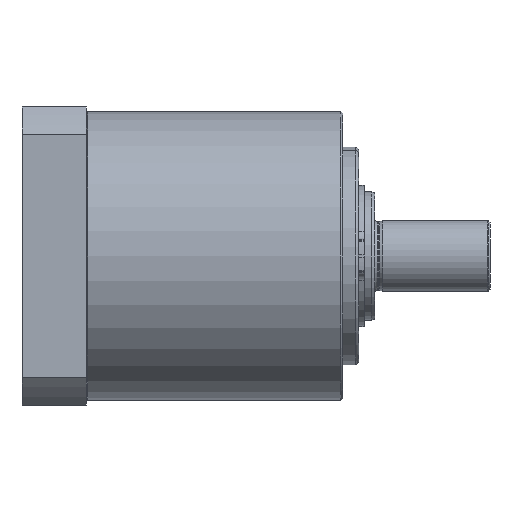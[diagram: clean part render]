
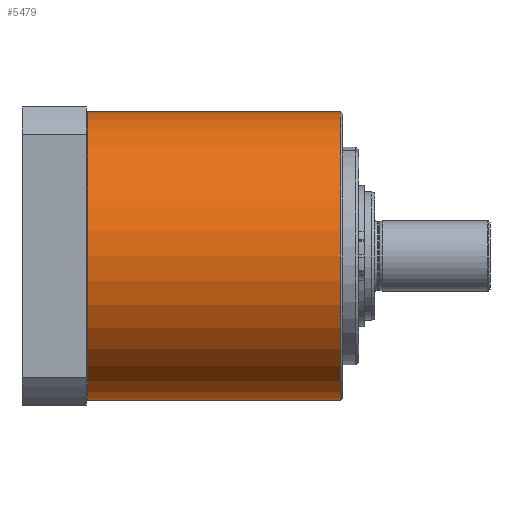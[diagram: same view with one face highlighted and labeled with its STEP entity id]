
A CAD part, front view. The second image highlights one B-rep face of the part: STEP entity #5479.
In plain terms, the highlighted cylindrical face has radius 45 mm (diameter 90 mm), a partial arc.
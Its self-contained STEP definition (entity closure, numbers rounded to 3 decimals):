
#222 = LINE ( 'NONE', #13585, #6341 ) ;
#600 = DIRECTION ( 'NONE',  ( 0., 0., -1. ) ) ;
#624 = CARTESIAN_POINT ( 'NONE',  ( 79.5, 0., 0. ) ) ;
#1463 = AXIS2_PLACEMENT_3D ( 'NONE', #624, #6131, #9425 ) ;
#1878 = DIRECTION ( 'NONE',  ( 1., 0., 0. ) ) ;
#1983 = VECTOR ( 'NONE', #8368, 1000. ) ;
#2133 = ORIENTED_EDGE ( 'NONE', *, *, #4869, .T. ) ;
#2322 = ORIENTED_EDGE ( 'NONE', *, *, #12853, .T. ) ;
#2755 = CARTESIAN_POINT ( 'NONE',  ( 79.5, 0., 45. ) ) ;
#3406 = AXIS2_PLACEMENT_3D ( 'NONE', #10634, #10492, #600 ) ;
#3995 = LINE ( 'NONE', #6313, #1983 ) ;
#4495 = VERTEX_POINT ( 'NONE', #2755 ) ;
#4638 = AXIS2_PLACEMENT_3D ( 'NONE', #12985, #1878, #14141 ) ;
#4869 = EDGE_CURVE ( 'NONE', #5853, #5347, #222, .T. ) ;
#5277 = CIRCLE ( 'NONE', #3406, 45. ) ;
#5347 = VERTEX_POINT ( 'NONE', #10382 ) ;
#5479 = ADVANCED_FACE ( 'NONE', ( #12845 ), #12773, .T. ) ;
#5752 = EDGE_CURVE ( 'NONE', #5347, #4495, #9202, .T. ) ;
#5853 = VERTEX_POINT ( 'NONE', #13322 ) ;
#6131 = DIRECTION ( 'NONE',  ( -1., 0., 0. ) ) ;
#6313 = CARTESIAN_POINT ( 'NONE',  ( 52.368, 0., 45. ) ) ;
#6341 = VECTOR ( 'NONE', #12552, 1000. ) ;
#6726 = ORIENTED_EDGE ( 'NONE', *, *, #5752, .T. ) ;
#8199 = EDGE_LOOP ( 'NONE', ( #13386, #2322, #2133, #6726 ) ) ;
#8368 = DIRECTION ( 'NONE',  ( 1., 0., 0. ) ) ;
#9202 = CIRCLE ( 'NONE', #1463, 45. ) ;
#9425 = DIRECTION ( 'NONE',  ( 0., 0., 1. ) ) ;
#10382 = CARTESIAN_POINT ( 'NONE',  ( 79.5, 0., -45. ) ) ;
#10492 = DIRECTION ( 'NONE',  ( 1., 0., 0. ) ) ;
#10589 = CARTESIAN_POINT ( 'NONE',  ( 0.5, 0., 45. ) ) ;
#10634 = CARTESIAN_POINT ( 'NONE',  ( 0.5, 0., 0. ) ) ;
#10773 = VERTEX_POINT ( 'NONE', #10589 ) ;
#12552 = DIRECTION ( 'NONE',  ( 1., 0., 0. ) ) ;
#12773 = CYLINDRICAL_SURFACE ( 'NONE', #4638, 45. ) ;
#12845 = FACE_OUTER_BOUND ( 'NONE', #8199, .T. ) ;
#12853 = EDGE_CURVE ( 'NONE', #10773, #5853, #5277, .T. ) ;
#12985 = CARTESIAN_POINT ( 'NONE',  ( 52.368, 0., 0. ) ) ;
#13322 = CARTESIAN_POINT ( 'NONE',  ( 0.5, 0., -45. ) ) ;
#13386 = ORIENTED_EDGE ( 'NONE', *, *, #14066, .F. ) ;
#13585 = CARTESIAN_POINT ( 'NONE',  ( 52.368, 0., -45. ) ) ;
#14066 = EDGE_CURVE ( 'NONE', #10773, #4495, #3995, .T. ) ;
#14141 = DIRECTION ( 'NONE',  ( 0., 0., -1. ) ) ;
